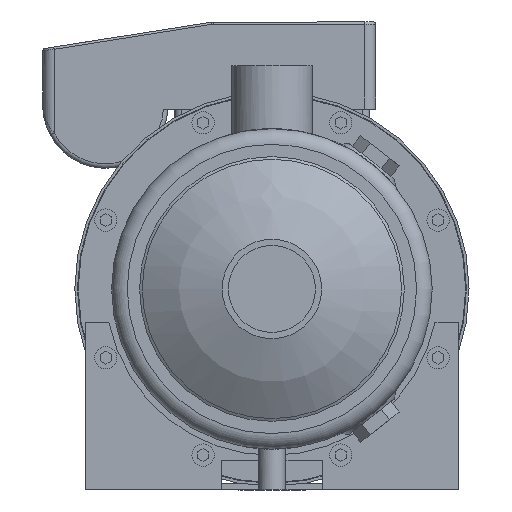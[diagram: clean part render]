
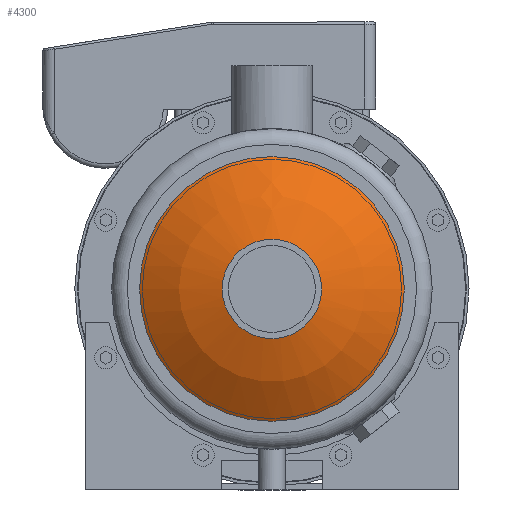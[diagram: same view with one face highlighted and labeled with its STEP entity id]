
A CAD part, left-side view. The second image highlights one B-rep face of the part: STEP entity #4300.
In plain terms, the highlighted spherical face has radius 100 mm.
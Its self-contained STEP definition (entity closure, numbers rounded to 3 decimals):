
#59=SPHERICAL_SURFACE('',#5717,100.);
#972=ORIENTED_EDGE('',*,*,#2147,.T.);
#973=ORIENTED_EDGE('',*,*,#2146,.F.);
#2146=EDGE_CURVE('',#2738,#2738,#3141,.T.);
#2147=EDGE_CURVE('',#2739,#2739,#3142,.T.);
#2738=VERTEX_POINT('',#7664);
#2739=VERTEX_POINT('',#7667);
#3141=CIRCLE('',#5716,22.25);
#3142=CIRCLE('',#5718,59.25);
#3348=EDGE_LOOP('',(#972));
#3349=EDGE_LOOP('',(#973));
#3747=FACE_BOUND('',#3348,.T.);
#3748=FACE_BOUND('',#3349,.T.);
#4300=ADVANCED_FACE('',(#3747,#3748),#59,.T.);
#5716=AXIS2_PLACEMENT_3D('',#7663,#6248,#6249);
#5717=AXIS2_PLACEMENT_3D('',#7665,#6250,#6251);
#5718=AXIS2_PLACEMENT_3D('',#7666,#6252,#6253);
#6248=DIRECTION('',(-1.,0.,0.));
#6249=DIRECTION('',(0.,0.,1.));
#6250=DIRECTION('',(-1.,0.,0.));
#6251=DIRECTION('',(0.,0.,1.));
#6252=DIRECTION('',(-1.,0.,0.));
#6253=DIRECTION('',(0.,0.,1.));
#7663=CARTESIAN_POINT('',(-140.693,0.,0.));
#7664=CARTESIAN_POINT('',(-140.693,0.,22.25));
#7665=CARTESIAN_POINT('',(-43.2,0.,0.));
#7666=CARTESIAN_POINT('',(-123.757,0.,0.));
#7667=CARTESIAN_POINT('',(-123.757,0.,59.25));
